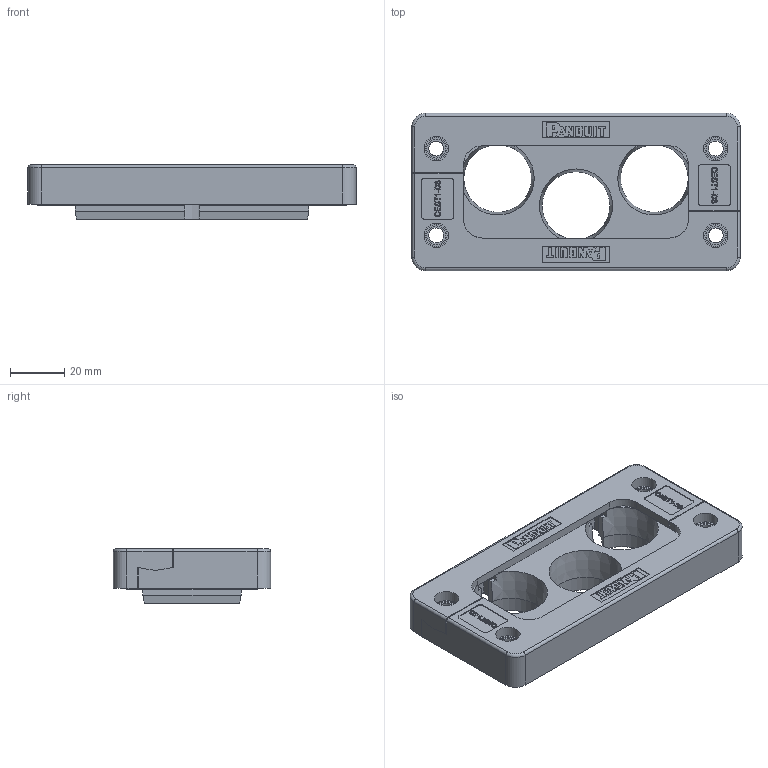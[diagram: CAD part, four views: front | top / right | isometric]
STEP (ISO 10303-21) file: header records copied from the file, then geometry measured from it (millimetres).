
FILE_DESCRIPTION(/* description */ (''),/* implementation_level */ '2;1');
FILE_NAME(/* name */ 'H:\SapWorkDir\Inventor\MP1\ConvertTempPath\87_11_121465_00_A_220620_KDL-C 16-3 ZSB.stp',/* time_stamp */ '2022-06-20T11:20:34+02:00',/* author */ ('BAUER'),/* organization */ (''),/* preprocessor_version */ 'ST-DEVELOPER v16.13',/* originating_system */ 'Autodesk Inventor 2018',/* authorisation */ '');
FILE_SCHEMA (('AUTOMOTIVE_DESIGN { 1 0 10303 214 3 1 1 }'));
Length unit declared in the file: millimetre
Products named in the file (3): 121465; KDB-16; 121414
Assembly tree (3 placements, depth 2):
  121465
    KDB-16
    121414  x2
Bounding box: 121 x 58 x 20 mm (x, y, z)
Volume: 75007.5 mm3; surface area: 38688.2 mm2
Topology: 3 solids, 3 shells, 958 faces, 2507 edges, 1616 vertices
Faces by surface type: plane 554, bspline 185, cylinder 159, torus 30, sphere 18, cone 12
Full cylindrical faces by diameter (mm): 5 x4, 5.5 x10, 6 x2, 7 x4, 8 x4, 9 x4
Entity records: 21042 total; most frequent: CARTESIAN_POINT 5537, ORIENTED_EDGE 3346, DIRECTION 2870, EDGE_CURVE 1673, VERTEX_POINT 1083, LINE 1074, VECTOR 1074, AXIS2_PLACEMENT_3D 898
